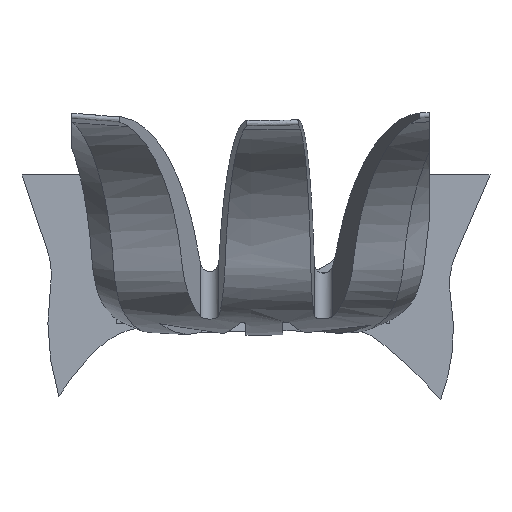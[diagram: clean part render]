
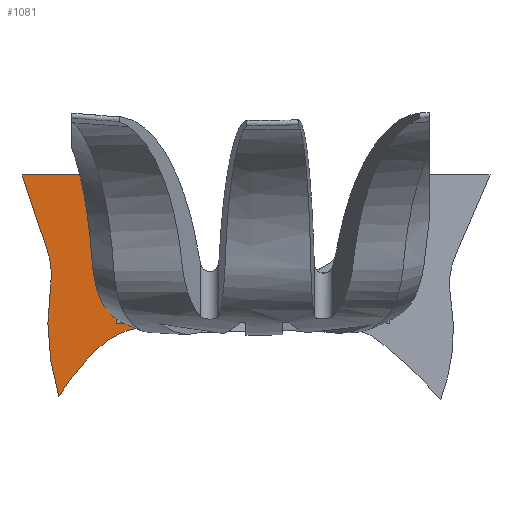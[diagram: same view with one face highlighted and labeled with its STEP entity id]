
A CAD part, left-side view. The second image highlights one B-rep face of the part: STEP entity #1081.
In plain terms, the highlighted planar face has unit normal (-1, 0, 0).
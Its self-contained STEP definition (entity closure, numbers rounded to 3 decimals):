
#190=CIRCLE('',#3160,10.21);
#192=CIRCLE('',#3164,12.);
#193=CIRCLE('',#3165,12.);
#194=CIRCLE('',#3166,39.371);
#195=CIRCLE('',#3167,37.563);
#266=PLANE('',#3168);
#378=FACE_OUTER_BOUND('',#1275,.T.);
#494=LINE('',#5555,#768);
#498=LINE('',#5564,#772);
#547=LINE('',#5682,#821);
#610=LINE('',#5874,#884);
#615=LINE('',#5906,#889);
#768=VECTOR('',#3327,1.);
#772=VECTOR('',#3333,1.);
#821=VECTOR('',#3422,1.);
#884=VECTOR('',#3609,1.);
#889=VECTOR('',#3628,1.);
#1081=ADVANCED_FACE('',(#378),#266,.T.);
#1275=EDGE_LOOP('',(#1758,#1759,#1760,#1761,#1762,#1763,#1764,#1765,#1766,
#1767,#1768,#1769));
#1758=ORIENTED_EDGE('',*,*,#2799,.T.);
#1759=ORIENTED_EDGE('',*,*,#2631,.F.);
#1760=ORIENTED_EDGE('',*,*,#2800,.T.);
#1761=ORIENTED_EDGE('',*,*,#2801,.T.);
#1762=ORIENTED_EDGE('',*,*,#2802,.T.);
#1763=ORIENTED_EDGE('',*,*,#2795,.F.);
#1764=ORIENTED_EDGE('',*,*,#2791,.F.);
#1765=ORIENTED_EDGE('',*,*,#2694,.F.);
#1766=ORIENTED_EDGE('',*,*,#2635,.F.);
#1767=ORIENTED_EDGE('',*,*,#2803,.T.);
#1768=ORIENTED_EDGE('',*,*,#2804,.T.);
#1769=ORIENTED_EDGE('',*,*,#2805,.T.);
#2321=VERTEX_POINT('',#5466);
#2334=VERTEX_POINT('',#5556);
#2337=VERTEX_POINT('',#5563);
#2338=VERTEX_POINT('',#5565);
#2385=VERTEX_POINT('',#5678);
#2454=VERTEX_POINT('',#5875);
#2456=VERTEX_POINT('',#5882);
#2458=VERTEX_POINT('',#5890);
#2459=VERTEX_POINT('',#5905);
#2460=VERTEX_POINT('',#5907);
#2461=VERTEX_POINT('',#5913);
#2462=VERTEX_POINT('',#5915);
#2631=EDGE_CURVE('',#2321,#2334,#494,.T.);
#2635=EDGE_CURVE('',#2337,#2338,#498,.T.);
#2694=EDGE_CURVE('',#2338,#2385,#547,.T.);
#2791=EDGE_CURVE('',#2385,#2454,#610,.T.);
#2795=EDGE_CURVE('',#2454,#2456,#190,.T.);
#2799=EDGE_CURVE('',#2458,#2334,#192,.T.);
#2800=EDGE_CURVE('',#2321,#2459,#3052,.T.);
#2801=EDGE_CURVE('',#2459,#2460,#615,.T.);
#2802=EDGE_CURVE('',#2460,#2456,#3053,.T.);
#2803=EDGE_CURVE('',#2337,#2461,#193,.T.);
#2804=EDGE_CURVE('',#2461,#2462,#194,.T.);
#2805=EDGE_CURVE('',#2462,#2458,#195,.T.);
#3052=B_SPLINE_CURVE_WITH_KNOTS('',3,(#5891,#5892,#5893,#5894,#5895,#5896,
#5897,#5898,#5899,#5900,#5901,#5902,#5903,#5904),.UNSPECIFIED.,.F.,.F.,
(4,2,2,2,2,2,4),(0.,0.125,0.25,0.5,0.625,0.75,
1.),.UNSPECIFIED.);
#3053=B_SPLINE_CURVE_WITH_KNOTS('',3,(#5908,#5909,#5910,#5911),
 .UNSPECIFIED.,.F.,.F.,(4,4),(0.,1.),.UNSPECIFIED.);
#3160=AXIS2_PLACEMENT_3D('',#5881,#3616,#3617);
#3164=AXIS2_PLACEMENT_3D('',#5889,#3626,#3627);
#3165=AXIS2_PLACEMENT_3D('',#5912,#3629,#3630);
#3166=AXIS2_PLACEMENT_3D('',#5914,#3631,#3632);
#3167=AXIS2_PLACEMENT_3D('',#5916,#3633,#3634);
#3168=AXIS2_PLACEMENT_3D('',#5917,#3635,#3636);
#3327=DIRECTION('',(0.,1.,-0.003));
#3333=DIRECTION('',(0.,0.319,0.948));
#3422=DIRECTION('',(0.,-1.,0.));
#3609=DIRECTION('',(0.,-0.291,-0.957));
#3616=DIRECTION('',(-1.,0.,0.));
#3617=DIRECTION('',(0.,-1.,-0.019));
#3626=DIRECTION('',(1.,0.,0.));
#3627=DIRECTION('',(0.,0.,1.));
#3628=DIRECTION('',(0.,0.,1.));
#3629=DIRECTION('',(1.,0.,0.));
#3630=DIRECTION('',(0.,0.,1.));
#3631=DIRECTION('',(-1.,0.,0.));
#3632=DIRECTION('',(0.,0.,1.));
#3633=DIRECTION('',(1.,0.,0.));
#3634=DIRECTION('',(0.,0.,1.));
#3635=DIRECTION('',(-1.,0.,0.));
#3636=DIRECTION('',(0.,0.,1.));
#5466=CARTESIAN_POINT('',(-9.,26.159,-9.985));
#5555=CARTESIAN_POINT('',(-9.,-16.009,-9.877));
#5556=CARTESIAN_POINT('',(-9.,26.88,-9.987));
#5563=CARTESIAN_POINT('',(-9.,43.207,1.929));
#5564=CARTESIAN_POINT('',(-9.,39.192,-10.019));
#5565=CARTESIAN_POINT('',(-9.,47.196,13.802));
#5678=CARTESIAN_POINT('',(-9.,29.701,13.802));
#5682=CARTESIAN_POINT('',(-9.,-10.589,13.802));
#5874=CARTESIAN_POINT('',(-9.,31.297,19.053));
#5875=CARTESIAN_POINT('',(-9.,27.091,5.22));
#5881=CARTESIAN_POINT('',(-9.,17.323,8.19));
#5882=CARTESIAN_POINT('',(-9.,19.708,-1.738));
#5889=CARTESIAN_POINT('',(-9.,26.849,-21.987));
#5890=CARTESIAN_POINT('',(-9.,34.967,-13.149));
#5891=CARTESIAN_POINT('',(-9.,26.159,-9.985));
#5892=CARTESIAN_POINT('',(-9.,26.435,-9.904));
#5893=CARTESIAN_POINT('',(-9.,26.699,-9.83));
#5894=CARTESIAN_POINT('',(-9.,27.207,-9.699));
#5895=CARTESIAN_POINT('',(-9.,27.406,-9.651));
#5896=CARTESIAN_POINT('',(-9.,28.235,-9.475));
#5897=CARTESIAN_POINT('',(-9.,28.71,-9.401));
#5898=CARTESIAN_POINT('',(-9.,29.501,-9.342));
#5899=CARTESIAN_POINT('',(-9.,29.777,-9.334));
#5900=CARTESIAN_POINT('',(-9.,30.271,-9.339));
#5901=CARTESIAN_POINT('',(-9.,30.575,-9.355));
#5902=CARTESIAN_POINT('',(-9.,31.28,-9.413));
#5903=CARTESIAN_POINT('',(-9.,31.894,-9.495));
#5904=CARTESIAN_POINT('',(-9.,32.378,-9.531));
#5905=CARTESIAN_POINT('',(-9.,32.378,-9.531));
#5906=CARTESIAN_POINT('',(-9.,32.378,8.4));
#5907=CARTESIAN_POINT('',(-9.,32.378,-1.187));
#5908=CARTESIAN_POINT('',(-9.,32.378,-1.187));
#5909=CARTESIAN_POINT('',(-9.,28.159,-1.454));
#5910=CARTESIAN_POINT('',(-9.,23.934,-1.638));
#5911=CARTESIAN_POINT('',(-9.,19.708,-1.738));
#5912=CARTESIAN_POINT('',(-9.,54.582,-1.894));
#5913=CARTESIAN_POINT('',(-9.,42.71,-3.647));
#5914=CARTESIAN_POINT('',(-9.,3.762,-9.399));
#5915=CARTESIAN_POINT('',(-9.,41.413,-20.909));
#5916=CARTESIAN_POINT('',(-9.,9.557,-40.814));
#5917=CARTESIAN_POINT('',(-9.,5.096,8.4));
